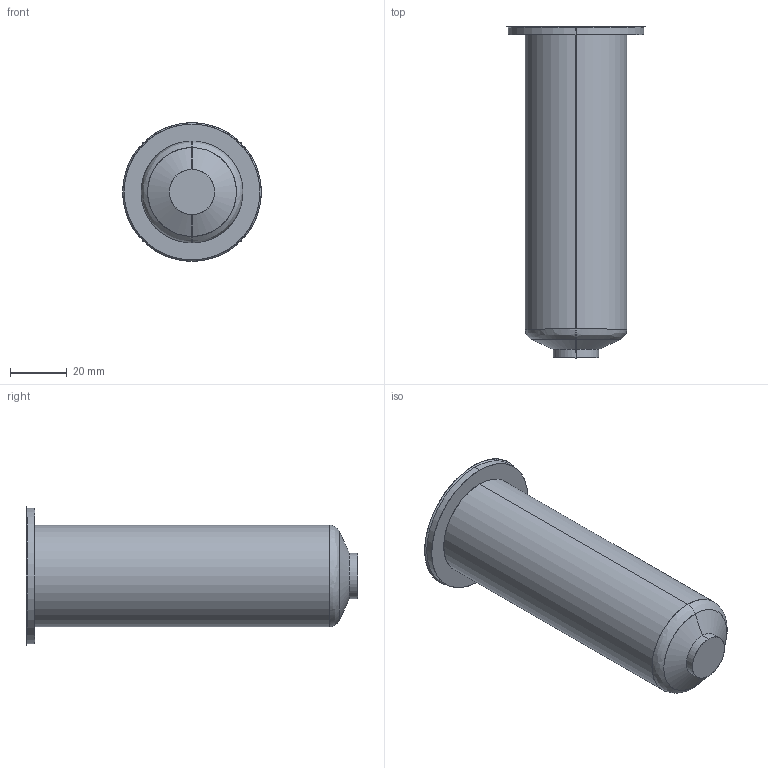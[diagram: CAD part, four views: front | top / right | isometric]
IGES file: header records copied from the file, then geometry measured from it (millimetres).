
Start section: SolidWorks IGES file using analytic representation for surfaces
Global section: file name: C:\Documents and Settings\ws-20\Desktop\TEMPORANEA\Sede UGBE5003-M-A C-114 L-134 P-0.IGS; native system: SolidWorks 2012; preprocessor: SolidWorks 2012; author: ws-20; date: 120307.090646; units: millimetre
Bounding box: 49 x 117.29 x 49 mm (x, y, z)
Surface area: 16406.9 mm2 (no closed solid volume)
Topology: 0 solids, 0 shells, 15 faces, 272 edges, 272 vertices
Faces by surface type: revolution 10, bspline 5
